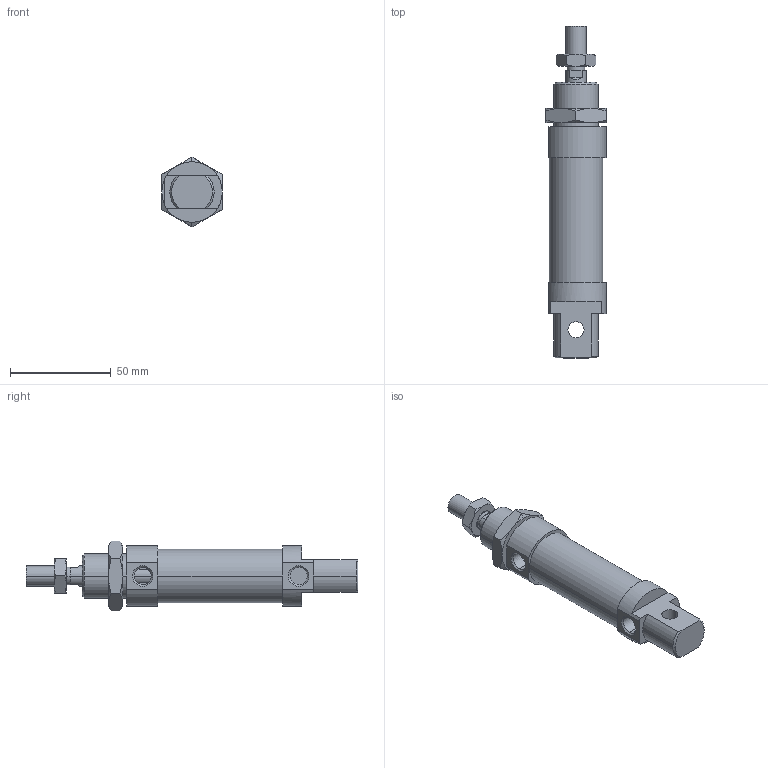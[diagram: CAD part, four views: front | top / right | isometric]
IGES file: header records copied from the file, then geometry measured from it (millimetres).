
Global section: file name: No Iges File Name specified; native system: AutoDesk Inventor R6.0; preprocessor: AutoDesk Inventor Iges Exporter R6.0; author: No Author specified; organization: No Organization specified; date: 20030407.191512; units: millimetre
Bounding box: 30 x 165 x 34.64 mm (x, y, z)
Volume: 73875.8 mm3; surface area: 21078.1 mm2
Topology: 4 solids, 4 shells, 124 faces, 281 edges, 170 vertices
Faces by surface type: plane 41, cone 38, bspline 21, cylinder 18, revolution 6
